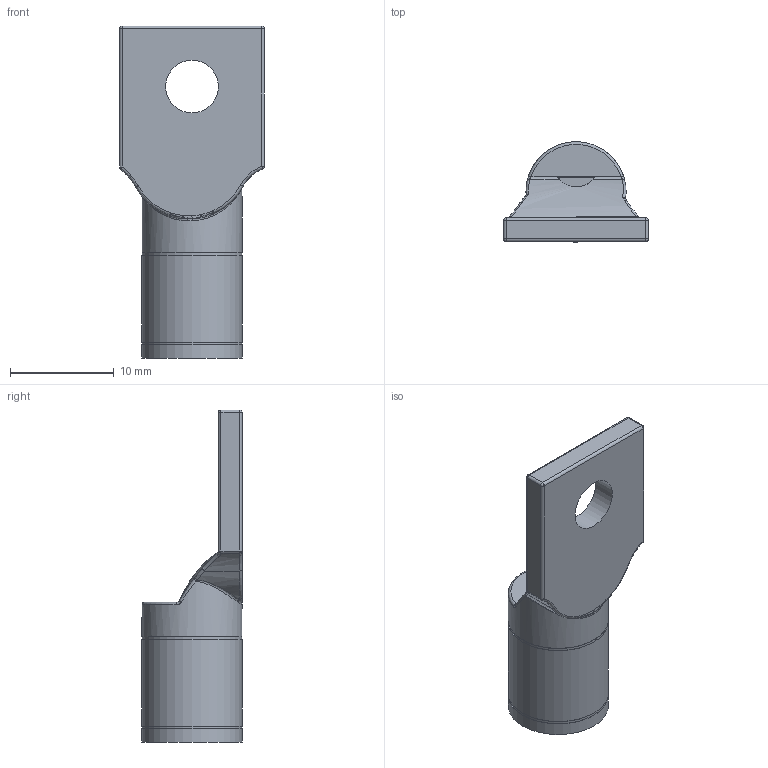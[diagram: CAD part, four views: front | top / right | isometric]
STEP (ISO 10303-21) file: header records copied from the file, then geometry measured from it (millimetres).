
FILE_DESCRIPTION (( 'STEP AP214' ), '1' );
FILE_NAME ('23520r1.STEP', '2011-07-11T14:02:11', ( 'Vicor User' ), ( 'Microsoft' ), 'SwSTEP 2.0', 'SolidWorks 2010', '' );
FILE_SCHEMA (( 'AUTOMOTIVE_DESIGN' ));
Length unit declared in the file: inch
Products named in the file (1): 23520r1
Bounding box: 13.97 x 9.66 x 32 mm (x, y, z)
Volume: 1579.6 mm3; surface area: 1133.1 mm2
Topology: 1 solids, 1 shells, 76 faces, 174 edges, 94 vertices
Faces by surface type: bspline 33, cylinder 19, plane 13, sphere 8, torus 3
Full cylindrical faces by diameter (mm): 5.08 x1, 9.601 x2, 9.652 x3
Entity records: 4348 total; most frequent: CARTESIAN_POINT 1936, ORIENTED_EDGE 312, DIRECTION 233, EDGE_CURVE 156, AXIS2_PLACEMENT_3D 104, VERTEX_POINT 92, EDGE_LOOP 88, FACE_OUTER_BOUND 82
